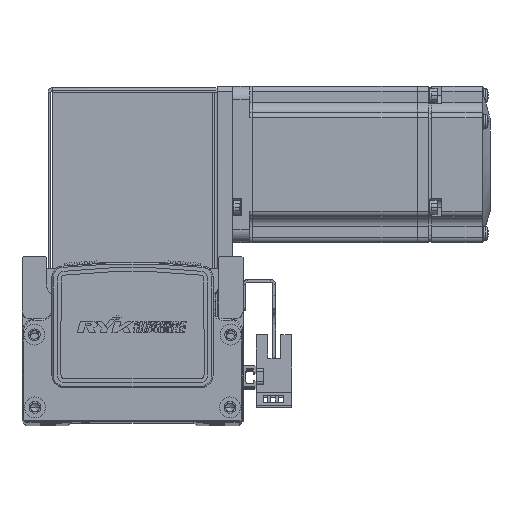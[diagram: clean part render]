
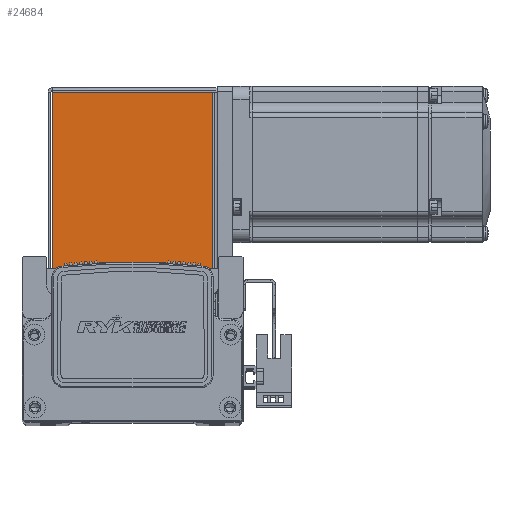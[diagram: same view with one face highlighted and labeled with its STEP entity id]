
A CAD part, top view. The second image highlights one B-rep face of the part: STEP entity #24684.
In plain terms, the highlighted planar face has unit normal (0, 0, 1) as drawn and (0, 0, -1) by its records, which use the part's own axes.
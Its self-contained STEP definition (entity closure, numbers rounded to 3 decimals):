
#1112 = AXIS2_PLACEMENT_3D ( 'NONE', #77159, #77169, #77134 ) ;
#17392 = CARTESIAN_POINT ( 'NONE',  ( 32.5, 0.737, -35. ) ) ;
#17411 = DIRECTION ( 'NONE',  ( 1., 0., 0. ) ) ;
#17569 = LINE ( 'NONE', #65167, #17570 ) ;
#17570 = VECTOR ( 'NONE', #65200, 1000. ) ;
#17582 = DIRECTION ( 'NONE',  ( 0., -1., 0. ) ) ;
#17677 = CARTESIAN_POINT ( 'NONE',  ( 30.763, 68.5, -35. ) ) ;
#17719 = DIRECTION ( 'NONE',  ( 0., 1., 0. ) ) ;
#17752 = CARTESIAN_POINT ( 'NONE',  ( -30.793, 0., -35. ) ) ;
#18605 = EDGE_CURVE ( 'NONE', #62412, #62324, #17569, .T. ) ;
#19586 = EDGE_CURVE ( 'NONE', #62399, #62383, #26298, .T. ) ;
#19610 = EDGE_CURVE ( 'NONE', #62324, #62383, #26368, .T. ) ;
#19638 = EDGE_CURVE ( 'NONE', #62399, #62412, #26442, .T. ) ;
#20685 = EDGE_LOOP ( 'NONE', ( #63728, #63799, #63793, #63800 ) ) ;
#24684 = ADVANCED_FACE ( 'NONE', ( #27116 ), #77102, .F. ) ;
#26298 = LINE ( 'NONE', #17392, #26311 ) ;
#26311 = VECTOR ( 'NONE', #17411, 1000. ) ;
#26368 = LINE ( 'NONE', #17677, #26394 ) ;
#26394 = VECTOR ( 'NONE', #17582, 1000. ) ;
#26437 = VECTOR ( 'NONE', #17719, 1000. ) ;
#26442 = LINE ( 'NONE', #17752, #26437 ) ;
#27116 = FACE_OUTER_BOUND ( 'NONE', #20685, .T. ) ;
#62324 = VERTEX_POINT ( 'NONE', #73195 ) ;
#62383 = VERTEX_POINT ( 'NONE', #73239 ) ;
#62399 = VERTEX_POINT ( 'NONE', #73333 ) ;
#62412 = VERTEX_POINT ( 'NONE', #73328 ) ;
#63728 = ORIENTED_EDGE ( 'NONE', *, *, #19610, .T. ) ;
#63793 = ORIENTED_EDGE ( 'NONE', *, *, #19638, .T. ) ;
#63799 = ORIENTED_EDGE ( 'NONE', *, *, #19586, .F. ) ;
#63800 = ORIENTED_EDGE ( 'NONE', *, *, #18605, .T. ) ;
#65167 = CARTESIAN_POINT ( 'NONE',  ( 0., 68.5, -35. ) ) ;
#65200 = DIRECTION ( 'NONE',  ( 1., 0., 0. ) ) ;
#73195 = CARTESIAN_POINT ( 'NONE',  ( 30.763, 68.5, -35. ) ) ;
#73239 = CARTESIAN_POINT ( 'NONE',  ( 30.763, 0.737, -35. ) ) ;
#73328 = CARTESIAN_POINT ( 'NONE',  ( -30.793, 68.5, -35. ) ) ;
#73333 = CARTESIAN_POINT ( 'NONE',  ( -30.793, 0.737, -35. ) ) ;
#77102 = PLANE ( 'NONE',  #1112 ) ;
#77134 = DIRECTION ( 'NONE',  ( 0., -1., 0. ) ) ;
#77159 = CARTESIAN_POINT ( 'NONE',  ( 0., 0., -35. ) ) ;
#77169 = DIRECTION ( 'NONE',  ( 0., 0., 1. ) ) ;
